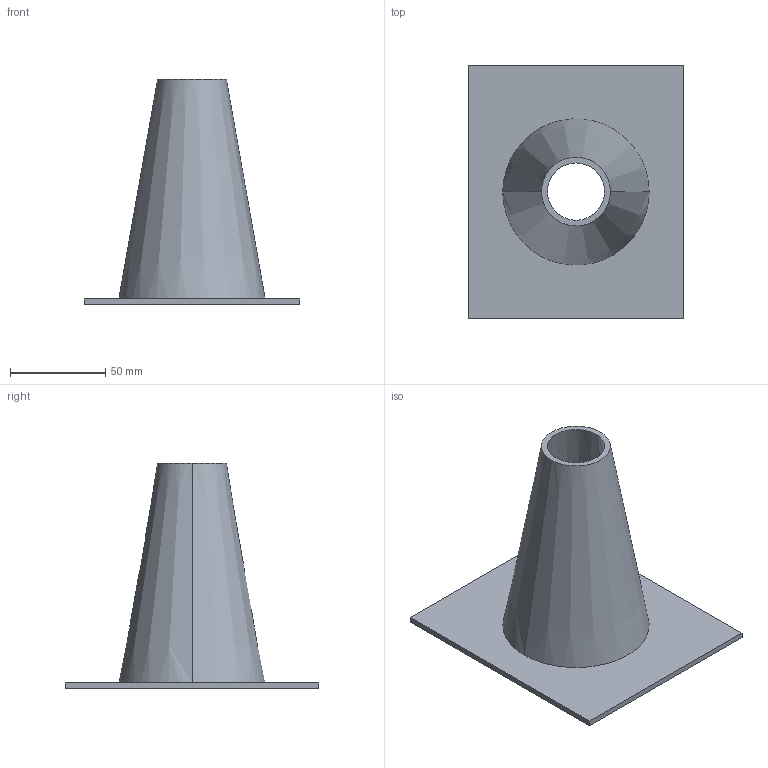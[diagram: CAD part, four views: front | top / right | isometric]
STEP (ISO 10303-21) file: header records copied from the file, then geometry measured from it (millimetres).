
FILE_DESCRIPTION(('CATIA V5 STEP Exchange'),'2;1');
FILE_NAME('C:\_Andres\UNIVERSIDAD\IQS\ASIGNATURAS\DAO\EXF\EXF-15161c\1original\Sánchez_Albiol_Ej08-ensambla_v23.stp','2016-03-04T21:37:19+00:00',('none'),('none'),'CATIA Version 5 Release 20 SP 1 (IN-10)','CATIA V5 STEP AP203','none');
FILE_SCHEMA(('CONFIG_CONTROL_DESIGN'));
Length unit declared in the file: millimetre
Products named in the file (1): Sánchez_Albiol_Ej08-ensambla_v23
Bounding box: 113 x 133 x 118 mm (x, y, z)
Volume: 91867.4 mm3; surface area: 63013 mm2
Topology: 1 solids, 1 shells, 11 faces, 24 edges, 16 vertices
Faces by surface type: plane 7, cone 4
Entity records: 414 total; most frequent: CARTESIAN_POINT 127, ORIENTED_EDGE 48, DIRECTION 44, EDGE_CURVE 24, AXIS2_PLACEMENT_3D 17, VECTOR 16, LINE 16, VERTEX_POINT 16
